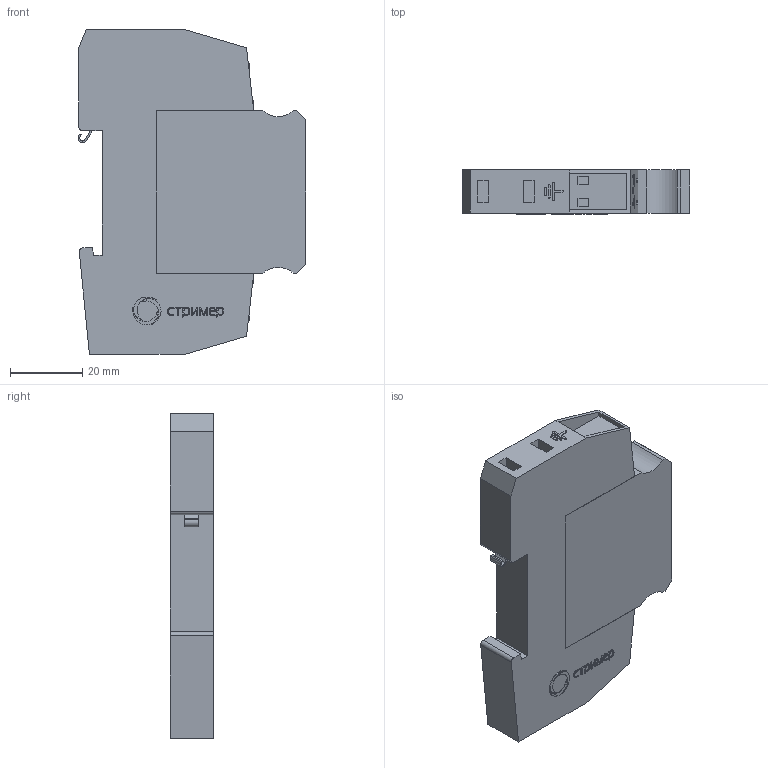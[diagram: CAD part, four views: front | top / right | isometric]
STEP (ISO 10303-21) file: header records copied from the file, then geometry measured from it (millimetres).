
FILE_DESCRIPTION(('TFLEX Exchange Step'),'2;1');
FILE_NAME('X2\041004400442\X0\.201.006.stp', '2022-08-30T14:22:49+03:00',('Ivan Berdigulov'),('Unknown organisation'),'TFLEX Exchange 2019.2','T-FLEX CAD','Unknown authorisation');
FILE_SCHEMA( ('AUTOMOTIVE_DESIGN { 1 0 10303 214 1 1 1 1 }') );
Length unit declared in the file: millimetre
Products named in the file (2): 0
Assembly tree (1 placements, depth 2):
  0
    0
Bounding box: 63.23 x 12.2 x 90.4 mm (x, y, z)
Volume: 53537.6 mm3; surface area: 16981.7 mm2
Topology: 33 solids, 33 shells, 479 faces, 1235 edges, 840 vertices
Faces by surface type: plane 330, bspline 108, cylinder 29, torus 9, cone 3
Full cylindrical faces by diameter (mm): 2 x3, 3.5 x6
Entity records: 17380 total; most frequent: CARTESIAN_POINT 6773, ORIENTED_EDGE 2416, DIRECTION 1658, EDGE_CURVE 1208, VERTEX_POINT 840, VECTOR 670, LINE 670, EDGE_LOOP 530
